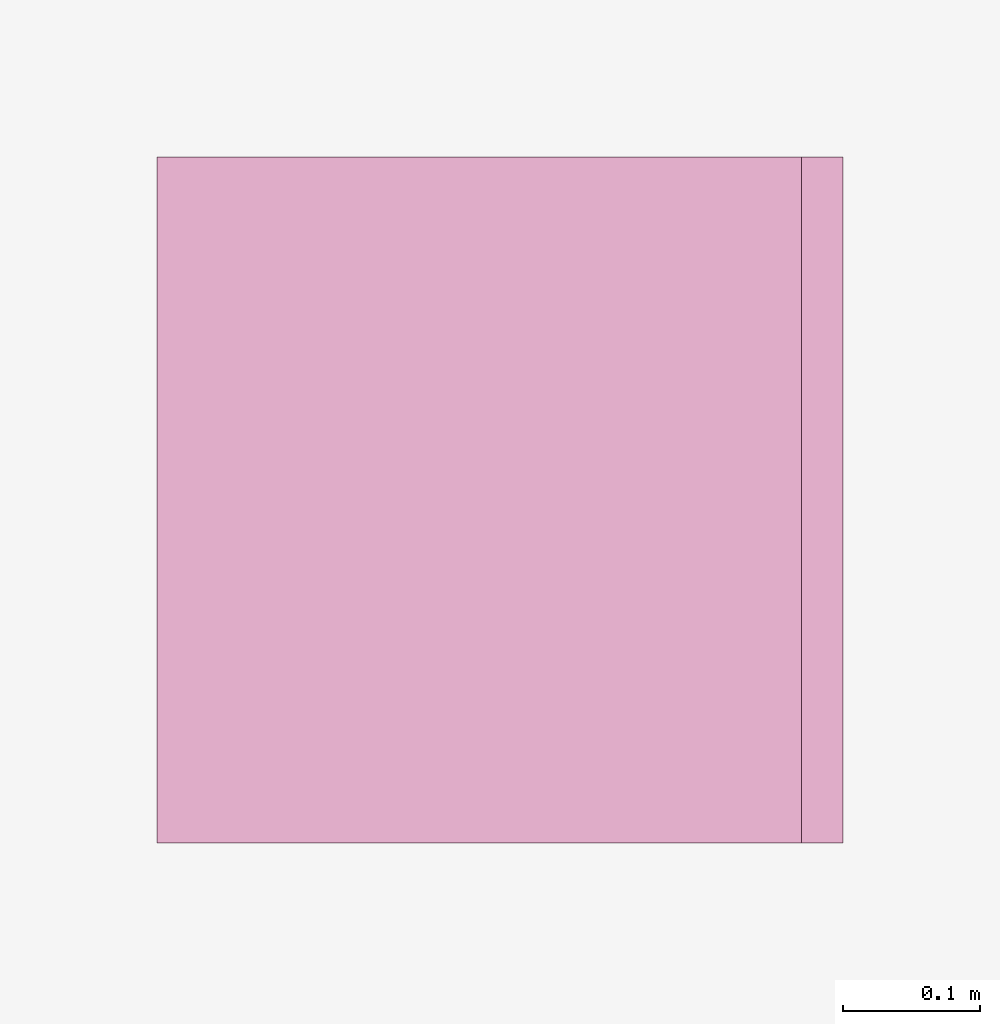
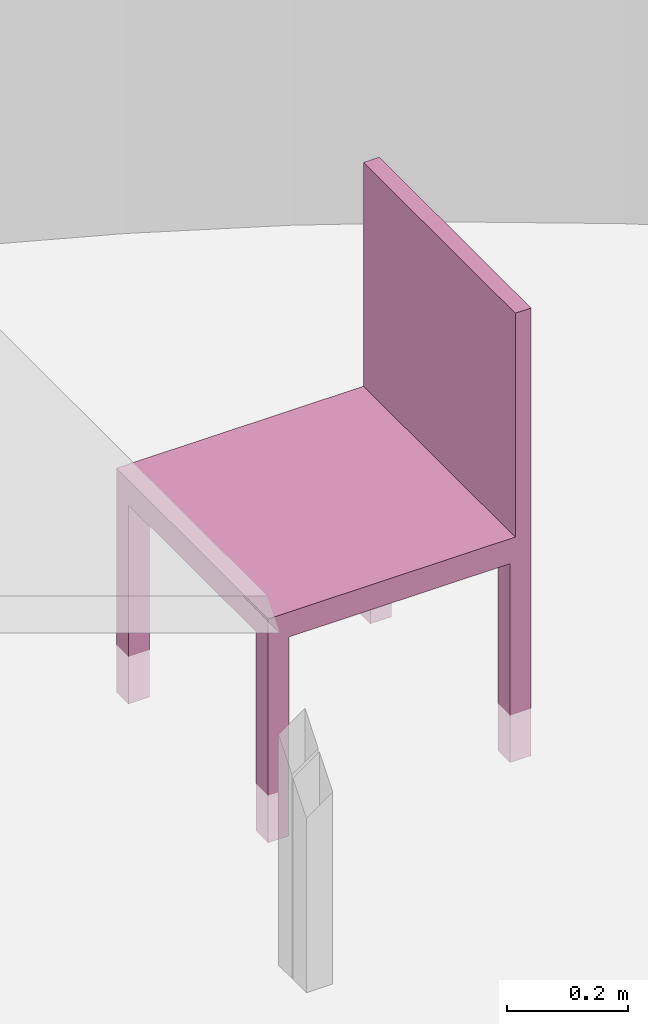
"""IFC4 building model written with IfcOpenShell, lengths in metres."""

from ifc_helpers import new_model, entity, si_unit, converted_unit, derived_unit, frame, origin, place, context, subcontext, project, spatial, faceted_brep, element, save


model = new_model("IFC4")

# Units and contexts
model_context = context("Model", 3, precision=1e-05, world=origin())
body_context = subcontext(model_context, "Body", "Model", "MODEL_VIEW")
ifc_project = project(units=[si_unit("LENGTHUNIT", "METRE"), si_unit("AREAUNIT", "SQUARE_METRE"), si_unit("VOLUMEUNIT", "CUBIC_METRE"), si_unit("MASSUNIT", "GRAM", prefix="KILO"), converted_unit("PLANEANGLEUNIT", "DEGREE", entity("IfcPlaneAngleMeasure", 0.0174532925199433), si_unit("PLANEANGLEUNIT", "RADIAN"), dimensions=[0, 0, 0, 0, 0, 0, 0]), derived_unit("THERMALTRANSMITTANCEUNIT", [(si_unit("POWERUNIT", "WATT"), 1), (si_unit("THERMODYNAMICTEMPERATUREUNIT", "KELVIN"), -1), (si_unit("LENGTHUNIT", "METRE"), -2)]), derived_unit("VOLUMETRICFLOWRATEUNIT", [(si_unit("LENGTHUNIT", "METRE"), 3), (converted_unit("TIMEUNIT", "hour", entity("IfcTimeMeasure", 3600.0), si_unit("TIMEUNIT", "SECOND"), dimensions=[0, 0, 1, 0, 0, 0, 0]), -1), (si_unit("LENGTHUNIT", "METRE"), -1)])], contexts=[model_context])

# Building, storeys
building_placement = place(None, origin())
building = spatial("IfcBuilding", under=ifc_project, at=building_placement, Name="HABITATGE PLURIFAMILIAR", CompositionType="ELEMENT")
storey_1_placement = place(building_placement, frame((0.0, 0.0, 9.26)))
storey_1 = spatial("IfcBuildingStorey", under=building, at=storey_1_placement, Name="PLANTA SEGONA", CompositionType="ELEMENT", Elevation=9.26)
storey_2_placement = place(storey_1_placement, frame((0.0, 0.0, 6.25)))
storey_2 = spatial("IfcBuildingStorey", under=storey_1, at=storey_2_placement, Name="NOU", CompositionType="PARTIAL")

# Furniture
furniture_placement = place(storey_2_placement, frame((407.590805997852, 21.4943461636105, -6.34632642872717)))
element("IfcFurniture", 1, at=furniture_placement, inside=storey_2, Name="Cadira d'Oficina_P2", context=body_context, shape_type="Brep", body=[
    faceted_brep([(0.0, 0.0, 0.4), (0.5, 0.0, 0.4), (0.5, 0.5, 0.4), (0.0, 0.5, 0.4), (0.5, 0.0, 0.45), (0.0, 0.0, 0.45), (0.0, 0.5, 0.45), (0.5, 0.5, 0.45)], [[[0, 1, 2, 3]], [[4, 5, 6, 7]], [[1, 0, 5, 4]], [[2, 1, 4, 7]], [[3, 2, 7, 6]], [[0, 3, 6, 5]]], orient=[[False], [False], [False], [False], [False], [False]]),
    faceted_brep([(0.46, 0.5, 0.0), (0.46, 0.46, 0.0), (0.5, 0.46, 0.0), (0.5, 0.5, 0.0), (0.46, 0.46, 0.4), (0.46, 0.5, 0.4), (0.5, 0.5, 0.4), (0.5, 0.46, 0.4)], [[[0, 1, 2, 3]], [[4, 5, 6, 7]], [[1, 0, 5, 4]], [[2, 1, 4, 7]], [[3, 2, 7, 6]], [[0, 3, 6, 5]]], orient=[[False], [False], [False], [False], [False], [False]]),
    faceted_brep([(0.0, 0.5, 0.0), (0.0, 0.46, 0.0), (0.04, 0.46, 0.0), (0.04, 0.5, 0.0), (0.0, 0.46, 0.4), (0.0, 0.5, 0.4), (0.04, 0.5, 0.4), (0.04, 0.46, 0.4)], [[[0, 1, 2, 3]], [[4, 5, 6, 7]], [[1, 0, 5, 4]], [[2, 1, 4, 7]], [[3, 2, 7, 6]], [[0, 3, 6, 5]]], orient=[[False], [False], [False], [False], [False], [False]]),
    faceted_brep([(0.46, 0.04, 0.0), (0.46, 0.0, 0.0), (0.5, 0.0, 0.0), (0.5, 0.04, 0.0), (0.46, 0.0, 0.4), (0.46, 0.04, 0.4), (0.5, 0.04, 0.4), (0.5, 0.0, 0.4)], [[[0, 1, 2, 3]], [[4, 5, 6, 7]], [[1, 0, 5, 4]], [[2, 1, 4, 7]], [[3, 2, 7, 6]], [[0, 3, 6, 5]]], orient=[[False], [False], [False], [False], [False], [False]]),
    faceted_brep([(0.0, 0.04, 0.0), (0.0, 0.0, 0.0), (0.04, 0.0, 0.0), (0.04, 0.04, 0.0), (0.0, 0.0, 0.4), (0.0, 0.04, 0.4), (0.04, 0.04, 0.4), (0.04, 0.0, 0.4)], [[[0, 1, 2, 3]], [[4, 5, 6, 7]], [[1, 0, 5, 4]], [[2, 1, 4, 7]], [[3, 2, 7, 6]], [[0, 3, 6, 5]]], orient=[[False], [False], [False], [False], [False], [False]]),
    faceted_brep([(0.47, 0.5, 0.45), (0.47, 0.0, 0.45), (0.5, 0.0, 0.45), (0.5, 0.5, 0.45), (0.47, 0.0, 0.9), (0.47, 0.5, 0.9), (0.5, 0.5, 0.9), (0.5, 0.0, 0.9)], [[[0, 1, 2, 3]], [[4, 5, 6, 7]], [[1, 0, 5, 4]], [[2, 1, 4, 7]], [[3, 2, 7, 6]], [[0, 3, 6, 5]]], orient=[[False], [False], [False], [False], [False], [False]]),
])

save(model, "model.ifc")
